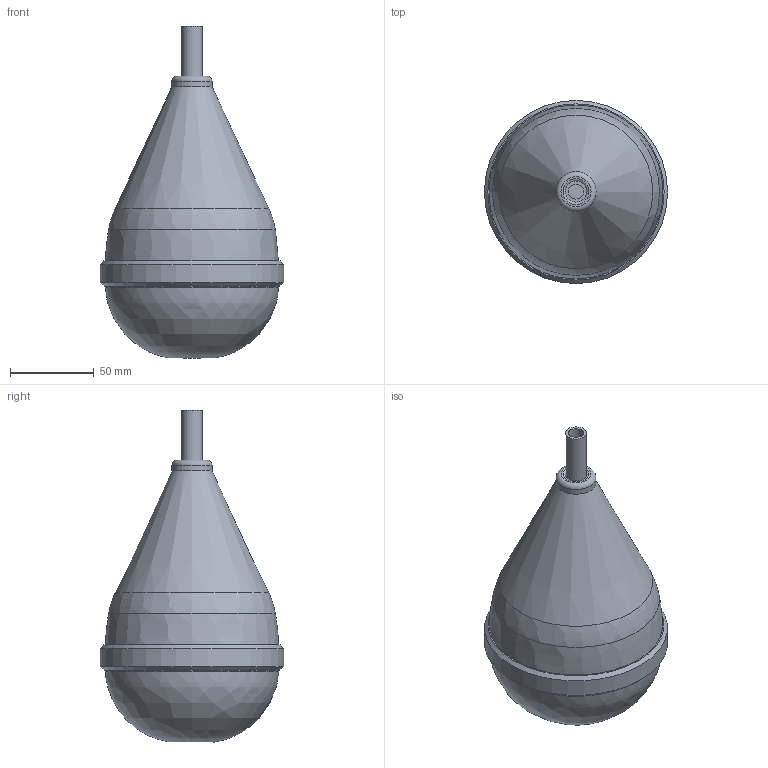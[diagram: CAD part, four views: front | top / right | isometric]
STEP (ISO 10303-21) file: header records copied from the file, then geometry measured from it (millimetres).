
FILE_DESCRIPTION( ( 'Unknown' ), '1' );
FILE_NAME( 'H:/Disegni/Lavori in sospeso/Catalogo/72A1-B1 x catalogo 3d/72B1.stp', 'Unknown', ( 'Unknown' ), ( 'Unknown' ), 'PSStep 15.0.49', 'Unknown', ' ' );
FILE_SCHEMA( ( 'AUTOMOTIVE_DESIGN { 1 0 10303 214 1 1 1 1 }' ) );
Length unit declared in the file: millimetre
Products named in the file (2): 3; 1
Bounding box: 109.5 x 109.5 x 198.5 mm (x, y, z)
Surface area: 51986.2 mm2 (no closed solid volume)
Topology: 0 solids, 19 shells, 19 faces, 53 edges, 40 vertices
Faces by surface type: plane 6, cylinder 4, bspline 4, cone 3, torus 2
Full cylindrical faces by diameter (mm): 9 x1, 12.6 x1, 24 x1, 109.5 x1
Entity records: 878 total; most frequent: CARTESIAN_POINT 201, DIRECTION 106, AXIS2_PLACEMENT_3D 53, PRESENTATION_STYLE_ASSIGNMENT 40, COLOUR_RGB 40, FACE_BOUND 36, EDGE_LOOP 36, ORIENTED_EDGE 36
